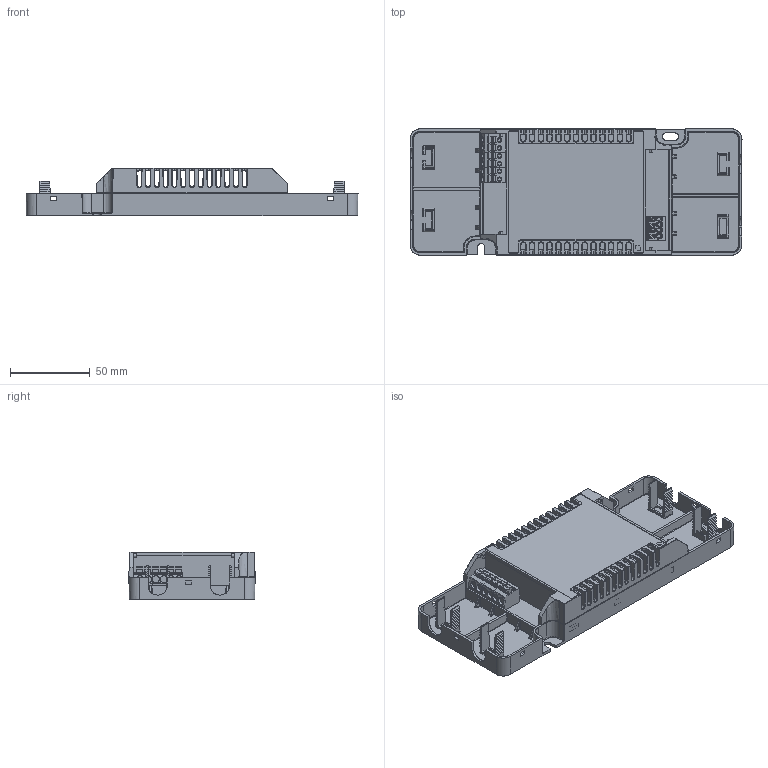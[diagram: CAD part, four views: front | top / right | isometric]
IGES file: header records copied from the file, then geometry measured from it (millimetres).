
Start section: SolidWorks IGES file using analytic representation for surfaces
Global section: file name: C:\Users\vuorinen_kari\Desktop\prj\P00010_LC_HYBRIDI\50w monsteri\LC51SE-CC-900-1400-LOOP-WOSR.IGS; native system: SolidWorks 2014; preprocessor: SolidWorks 2014; author: vuorinen_kari; date: 180620.150339; units: millimetre
Bounding box: 207.8 x 79 x 30 mm (x, y, z)
Surface area: 106911.7 mm2 (no closed solid volume)
Topology: 0 solids, 0 shells, 2575 faces, 19932 edges, 19823 vertices
Faces by surface type: bspline 1581, revolution 994
